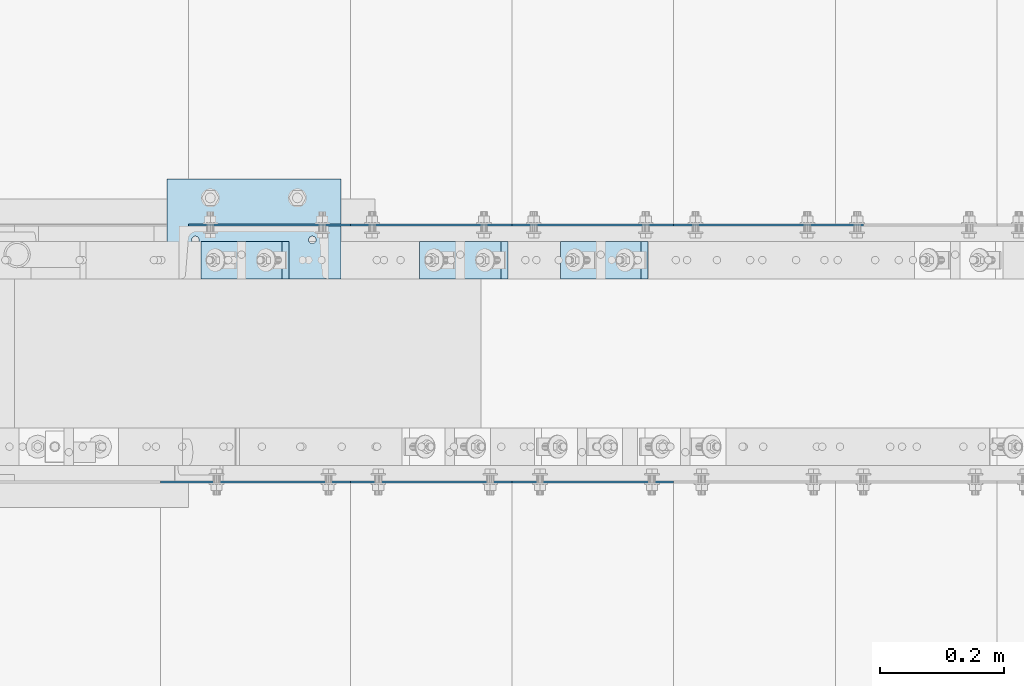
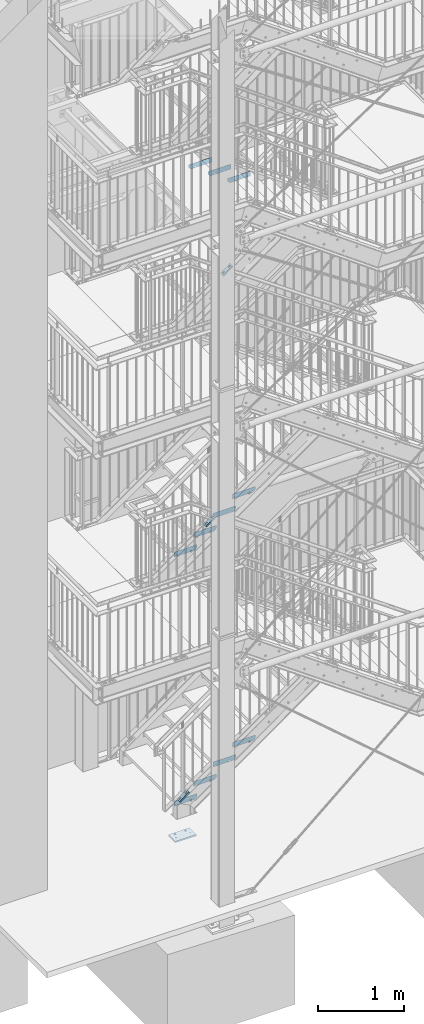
# One storey, part 170 of 825: 15 plates, 32 openings.
"""IFC2X3 building model written with IfcOpenShell, lengths in millimetres."""

from ifc_helpers import new_model, entity, si_unit, converted_unit, point, frame, frame_2d, origin, origin_with_axes, origin_2d_with_axis, place, context, project, spatial, polyline, circle_curve, line_curve, trimmed, segment, composite_curve, circle, outline, extrude, material, layer, layer_set, element, save


model = new_model("IFC2X3")

# Units and contexts
model_context = context("Model", 3, precision=1e-09, world=origin_with_axes())
ifc_project = project(units=[si_unit("LENGTHUNIT", "METRE", prefix="MILLI"), si_unit("AREAUNIT", "SQUARE_METRE"), si_unit("VOLUMEUNIT", "CUBIC_METRE"), converted_unit("PLANEANGLEUNIT", "DEGREE", entity("IfcPlaneAngleMeasure", 0.01745329), si_unit("PLANEANGLEUNIT", "RADIAN"), dimensions=[0, 0, 0, 0, 0, 0, 0])], contexts=[model_context])

# Site, building, storey
site_placement = place(None, origin_with_axes())
site = spatial("IfcSite", under=ifc_project, at=site_placement, Name="Cnopf'sche Kinderklinik", CompositionType="ELEMENT")
building_placement = place(site_placement, origin_with_axes())
building = spatial("IfcBuilding", under=site, at=building_placement, Name="Struktur 1", CompositionType="ELEMENT")
storey_placement = place(building_placement, origin_with_axes())
storey = spatial("IfcBuildingStorey", under=building, at=storey_placement, Name="Default Storey", CompositionType="ELEMENT", Elevation=0.0)

# Plate, openings
ifc_material = material(Name="S235JR")
ifc_layer_1 = layer(ifc_material, 3.0)
ifc_layer_set_1 = layer_set([ifc_layer_1], Name="S235JR")
plate_1_placement = place(None, frame((6016.713402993, 5733.736971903, 9428.0), z_axis=(0.0, 1.0, 0.0), x_axis=(0.0, 0.0, -1.0)))
plate_1 = element("IfcPlate", 1, at=plate_1_placement, inside=storey, material=ifc_layer_set_1, Name="Grate_Step#24", ObjectType="Grate_Step#24", context=model_context, shape_type="SweptSolid", body=[
    extrude(outline(polyline([(0.0, 0.0), (70.0, 0.0), (70.0, 275.0), (40.0, 305.0), (0.0, 305.0), (0.0, 0.0)])), origin_with_axes(), (0.0, 0.0, 1.0), 3.0),
])
opening_1_placement = place(plate_1_placement, frame((55.0, 35.0, -0.5), z_axis=(0.0, 0.0, 1.0), x_axis=(0.0, 1.0, 0.0)))
element("IfcOpeningElement", 2, at=opening_1_placement, cuts=plate_1, ObjectType="Opening", context=model_context, shape_type="SweptSolid", body=[
    extrude(circle(Radius=7.001, at=origin_2d_with_axis()), origin(), (0.0, 0.0, 1.0), 4.0),
])
opening_2_placement = place(plate_1_placement, frame((55.0, 215.0, -0.5), z_axis=(0.0, 0.0, 1.0), x_axis=(0.0, 1.0, 0.0)))
element("IfcOpeningElement", 3, at=opening_2_placement, cuts=plate_1, ObjectType="Opening", context=model_context, shape_type="SweptSolid", body=[
    extrude(outline(composite_curve([segment(trimmed(line_curve((-9.5, -7.001), (1.0, 0.0), 19.0), [point((-9.5, -7.001))], [point((9.5, -7.001))], True, "CARTESIAN"), True, "CONTINUOUS"), segment(trimmed(circle_curve(frame_2d((9.5, 0.0), x_axis=(1.0, 0.0)), 7.001), [point((9.5, -7.001))], [point((9.5, 7.001))], True, "CARTESIAN"), True, "CONTINUOUS"), segment(trimmed(line_curve((9.5, 7.001), (-1.0, 0.0), 19.0), [point((9.5, 7.001))], [point((-9.5, 7.001))], True, "CARTESIAN"), True, "CONTINUOUS"), segment(trimmed(circle_curve(frame_2d((-9.5, 0.0), x_axis=(1.0, 0.0)), 7.001), [point((-9.5, 7.001))], [point((-9.5, -7.001))], True, "CARTESIAN"), True, "CONTINUOUS")], self_intersect=False)), origin(), (0.0, 0.0, 1.0), 4.0),
])

plate_2_placement = place(None, frame((5756.713402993, 5733.736971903, 9616.0), z_axis=(0.0, 1.0, 0.0), x_axis=(0.0, 0.0, -1.0)))
plate_2 = element("IfcPlate", 4, at=plate_2_placement, inside=storey, material=ifc_layer_set_1, Name="Grate_Step#31", ObjectType="Grate_Step#31", context=model_context, shape_type="SweptSolid", body=[
    extrude(outline(polyline([(0.0, 0.0), (70.0, 0.0), (70.0, 275.0), (40.0, 305.0), (0.0, 305.0), (0.0, 0.0)])), origin_with_axes(), (0.0, 0.0, 1.0), 3.0),
])
opening_3_placement = place(plate_2_placement, frame((55.0, 35.0, -0.5), z_axis=(0.0, 0.0, 1.0), x_axis=(0.0, 1.0, 0.0)))
element("IfcOpeningElement", 5, at=opening_3_placement, cuts=plate_2, ObjectType="Opening", context=model_context, shape_type="SweptSolid", body=[
    extrude(circle(Radius=7.001, at=origin_2d_with_axis()), origin(), (0.0, 0.0, 1.0), 4.0),
])
opening_4_placement = place(plate_2_placement, frame((55.0, 215.0, -0.5), z_axis=(0.0, 0.0, 1.0), x_axis=(0.0, 1.0, 0.0)))
element("IfcOpeningElement", 6, at=opening_4_placement, cuts=plate_2, ObjectType="Opening", context=model_context, shape_type="SweptSolid", body=[
    extrude(outline(composite_curve([segment(trimmed(line_curve((-9.5, -7.001), (1.0, 0.0), 19.0), [point((-9.5, -7.001))], [point((9.5, -7.001))], True, "CARTESIAN"), True, "CONTINUOUS"), segment(trimmed(circle_curve(frame_2d((9.5, 0.0), x_axis=(1.0, 0.0)), 7.001), [point((9.5, -7.001))], [point((9.5, 7.001))], True, "CARTESIAN"), True, "CONTINUOUS"), segment(trimmed(line_curve((9.5, 7.001), (-1.0, 0.0), 19.0), [point((9.5, 7.001))], [point((-9.5, 7.001))], True, "CARTESIAN"), True, "CONTINUOUS"), segment(trimmed(circle_curve(frame_2d((-9.5, 0.0), x_axis=(1.0, 0.0)), 7.001), [point((-9.5, 7.001))], [point((-9.5, -7.001))], True, "CARTESIAN"), True, "CONTINUOUS")], self_intersect=False)), origin(), (0.0, 0.0, 1.0), 4.0),
])

plate_3_placement = place(None, frame((5496.713402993, 5733.736971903, 9804.0), z_axis=(0.0, 1.0, 0.0), x_axis=(0.0, 0.0, -1.0)))
plate_3 = element("IfcPlate", 7, at=plate_3_placement, inside=storey, material=ifc_layer_set_1, Name="Grate_Step#38", ObjectType="Grate_Step#38", context=model_context, shape_type="SweptSolid", body=[
    extrude(outline(polyline([(0.0, 0.0), (70.0, 0.0), (70.0, 275.0), (40.0, 305.0), (0.0, 305.0), (0.0, 0.0)])), origin_with_axes(), (0.0, 0.0, 1.0), 3.0),
])
opening_5_placement = place(plate_3_placement, frame((55.0, 35.0, -0.5), z_axis=(0.0, 0.0, 1.0), x_axis=(0.0, 1.0, 0.0)))
element("IfcOpeningElement", 8, at=opening_5_placement, cuts=plate_3, ObjectType="Opening", context=model_context, shape_type="SweptSolid", body=[
    extrude(circle(Radius=7.001, at=origin_2d_with_axis()), origin(), (0.0, 0.0, 1.0), 4.0),
])
opening_6_placement = place(plate_3_placement, frame((55.0, 215.0, -0.5), z_axis=(0.0, 0.0, 1.0), x_axis=(0.0, 1.0, 0.0)))
element("IfcOpeningElement", 9, at=opening_6_placement, cuts=plate_3, ObjectType="Opening", context=model_context, shape_type="SweptSolid", body=[
    extrude(outline(composite_curve([segment(trimmed(line_curve((-9.5, -7.001), (1.0, 0.0), 19.0), [point((-9.5, -7.001))], [point((9.5, -7.001))], True, "CARTESIAN"), True, "CONTINUOUS"), segment(trimmed(circle_curve(frame_2d((9.5, 0.0), x_axis=(1.0, 0.0)), 7.001), [point((9.5, -7.001))], [point((9.5, 7.001))], True, "CARTESIAN"), True, "CONTINUOUS"), segment(trimmed(line_curve((9.5, 7.001), (-1.0, 0.0), 19.0), [point((9.5, 7.001))], [point((-9.5, 7.001))], True, "CARTESIAN"), True, "CONTINUOUS"), segment(trimmed(circle_curve(frame_2d((-9.5, 0.0), x_axis=(1.0, 0.0)), 7.001), [point((-9.5, 7.001))], [point((-9.5, -7.001))], True, "CARTESIAN"), True, "CONTINUOUS")], self_intersect=False)), origin(), (0.0, 0.0, 1.0), 4.0),
])

plate_4_placement = place(None, frame((5756.713402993, 6149.736971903, 925.3157888), z_axis=(0.0, -1.0, 0.0), x_axis=(0.0, 0.0, -1.0)))
plate_4 = element("IfcPlate", 10, at=plate_4_placement, inside=storey, material=ifc_layer_set_1, Name="Grate_Step#17", ObjectType="Grate_Step#17", context=model_context, shape_type="SweptSolid", body=[
    extrude(outline(polyline([(0.0, 0.0), (70.0, 0.0), (70.0, 275.0), (40.0, 305.0), (0.0, 305.0), (0.0, 0.0)])), origin_with_axes(), (0.0, 0.0, 1.0), 3.0),
])
opening_7_placement = place(plate_4_placement, frame((55.0, 35.0, -0.5), z_axis=(0.0, 0.0, 1.0), x_axis=(0.0, 1.0, 0.0)))
element("IfcOpeningElement", 11, at=opening_7_placement, cuts=plate_4, ObjectType="Opening", context=model_context, shape_type="SweptSolid", body=[
    extrude(circle(Radius=7.001, at=origin_2d_with_axis()), origin(), (0.0, 0.0, 1.0), 4.0),
])
opening_8_placement = place(plate_4_placement, frame((55.0, 215.0, -0.5), z_axis=(0.0, 0.0, 1.0), x_axis=(0.0, 1.0, 0.0)))
element("IfcOpeningElement", 12, at=opening_8_placement, cuts=plate_4, ObjectType="Opening", context=model_context, shape_type="SweptSolid", body=[
    extrude(outline(composite_curve([segment(trimmed(line_curve((-9.5, -7.001), (1.0, 0.0), 19.0), [point((-9.5, -7.001))], [point((9.5, -7.001))], True, "CARTESIAN"), True, "CONTINUOUS"), segment(trimmed(circle_curve(frame_2d((9.5, 0.0), x_axis=(1.0, 0.0)), 7.001), [point((9.5, -7.001))], [point((9.5, 7.001))], True, "CARTESIAN"), True, "CONTINUOUS"), segment(trimmed(line_curve((9.5, 7.001), (-1.0, 0.0), 19.0), [point((9.5, 7.001))], [point((-9.5, 7.001))], True, "CARTESIAN"), True, "CONTINUOUS"), segment(trimmed(circle_curve(frame_2d((-9.5, 0.0), x_axis=(1.0, 0.0)), 7.001), [point((-9.5, 7.001))], [point((-9.5, -7.001))], True, "CARTESIAN"), True, "CONTINUOUS")], self_intersect=False)), origin(), (0.0, 0.0, 1.0), 4.0),
])

plate_5_placement = place(None, frame((5496.713402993, 6149.736971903, 740.2105256), z_axis=(0.0, -1.0, 0.0), x_axis=(0.0, 0.0, -1.0)))
plate_5 = element("IfcPlate", 13, at=plate_5_placement, inside=storey, material=ifc_layer_set_1, Name="Grate_Step#10", ObjectType="Grate_Step#10", context=model_context, shape_type="SweptSolid", body=[
    extrude(outline(polyline([(0.0, 0.0), (70.0, 0.0), (70.0, 275.0), (40.0, 305.0), (0.0, 305.0), (0.0, 0.0)])), origin_with_axes(), (0.0, 0.0, 1.0), 3.0),
])
opening_9_placement = place(plate_5_placement, frame((55.0, 215.0, -0.5), z_axis=(0.0, 0.0, 1.0), x_axis=(0.0, 1.0, 0.0)))
element("IfcOpeningElement", 14, at=opening_9_placement, cuts=plate_5, ObjectType="Opening", context=model_context, shape_type="SweptSolid", body=[
    extrude(outline(composite_curve([segment(trimmed(line_curve((-9.5, -7.001), (1.0, 0.0), 19.0), [point((-9.5, -7.001))], [point((9.5, -7.001))], True, "CARTESIAN"), True, "CONTINUOUS"), segment(trimmed(circle_curve(frame_2d((9.5, 0.0), x_axis=(1.0, 0.0)), 7.001), [point((9.5, -7.001))], [point((9.5, 7.001))], True, "CARTESIAN"), True, "CONTINUOUS"), segment(trimmed(line_curve((9.5, 7.001), (-1.0, 0.0), 19.0), [point((9.5, 7.001))], [point((-9.5, 7.001))], True, "CARTESIAN"), True, "CONTINUOUS"), segment(trimmed(circle_curve(frame_2d((-9.5, 0.0), x_axis=(1.0, 0.0)), 7.001), [point((-9.5, 7.001))], [point((-9.5, -7.001))], True, "CARTESIAN"), True, "CONTINUOUS")], self_intersect=False)), origin(), (0.0, 0.0, 1.0), 4.0),
])
opening_10_placement = place(plate_5_placement, frame((55.0, 35.0, -0.5), z_axis=(0.0, 0.0, 1.0), x_axis=(0.0, 1.0, 0.0)))
element("IfcOpeningElement", 15, at=opening_10_placement, cuts=plate_5, ObjectType="Opening", context=model_context, shape_type="SweptSolid", body=[
    extrude(circle(Radius=7.001, at=origin_2d_with_axis()), origin(), (0.0, 0.0, 1.0), 4.0),
])

plate_6_placement = place(None, frame((5496.713402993, 6149.736971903, 4252.5789471), z_axis=(0.0, -1.0, 0.0), x_axis=(0.0, 0.0, -1.0)))
plate_6 = element("IfcPlate", 16, at=plate_6_placement, inside=storey, material=ifc_layer_set_1, Name="Grate_Step#10", ObjectType="Grate_Step#10", context=model_context, shape_type="SweptSolid", body=[
    extrude(outline(polyline([(0.0, 0.0), (70.0, 0.0), (70.0, 275.0), (40.0, 305.0), (0.0, 305.0), (0.0, 0.0)])), origin_with_axes(), (0.0, 0.0, 1.0), 3.0),
])
opening_11_placement = place(plate_6_placement, frame((55.0, 215.0, -0.5), z_axis=(0.0, 0.0, 1.0), x_axis=(0.0, 1.0, 0.0)))
element("IfcOpeningElement", 17, at=opening_11_placement, cuts=plate_6, ObjectType="Opening", context=model_context, shape_type="SweptSolid", body=[
    extrude(outline(composite_curve([segment(trimmed(line_curve((-9.5, -7.001), (1.0, 0.0), 19.0), [point((-9.5, -7.001))], [point((9.5, -7.001))], True, "CARTESIAN"), True, "CONTINUOUS"), segment(trimmed(circle_curve(frame_2d((9.5, 0.0), x_axis=(1.0, 0.0)), 7.001), [point((9.5, -7.001))], [point((9.5, 7.001))], True, "CARTESIAN"), True, "CONTINUOUS"), segment(trimmed(line_curve((9.5, 7.001), (-1.0, 0.0), 19.0), [point((9.5, 7.001))], [point((-9.5, 7.001))], True, "CARTESIAN"), True, "CONTINUOUS"), segment(trimmed(circle_curve(frame_2d((-9.5, 0.0), x_axis=(1.0, 0.0)), 7.001), [point((-9.5, 7.001))], [point((-9.5, -7.001))], True, "CARTESIAN"), True, "CONTINUOUS")], self_intersect=False)), origin(), (0.0, 0.0, 1.0), 4.0),
])
opening_12_placement = place(plate_6_placement, frame((55.0, 35.0, -0.5), z_axis=(0.0, 0.0, 1.0), x_axis=(0.0, 1.0, 0.0)))
element("IfcOpeningElement", 18, at=opening_12_placement, cuts=plate_6, ObjectType="Opening", context=model_context, shape_type="SweptSolid", body=[
    extrude(circle(Radius=7.001, at=origin_2d_with_axis()), origin(), (0.0, 0.0, 1.0), 4.0),
])

plate_7_placement = place(None, frame((6016.713402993, 6149.736971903, 4618.1578945), z_axis=(0.0, -1.0, 0.0), x_axis=(0.0, 0.0, -1.0)))
plate_7 = element("IfcPlate", 19, at=plate_7_placement, inside=storey, material=ifc_layer_set_1, Name="Grate_Step#24", ObjectType="Grate_Step#24", context=model_context, shape_type="SweptSolid", body=[
    extrude(outline(polyline([(0.0, 0.0), (70.0, 0.0), (70.0, 275.0), (40.0, 305.0), (0.0, 305.0), (0.0, 0.0)])), origin_with_axes(), (0.0, 0.0, 1.0), 3.0),
])
opening_13_placement = place(plate_7_placement, frame((55.0, 35.0, -0.5), z_axis=(0.0, 0.0, 1.0), x_axis=(0.0, 1.0, 0.0)))
element("IfcOpeningElement", 20, at=opening_13_placement, cuts=plate_7, ObjectType="Opening", context=model_context, shape_type="SweptSolid", body=[
    extrude(circle(Radius=7.001, at=origin_2d_with_axis()), origin(), (0.0, 0.0, 1.0), 4.0),
])
opening_14_placement = place(plate_7_placement, frame((55.0, 215.0, -0.5), z_axis=(0.0, 0.0, 1.0), x_axis=(0.0, 1.0, 0.0)))
element("IfcOpeningElement", 21, at=opening_14_placement, cuts=plate_7, ObjectType="Opening", context=model_context, shape_type="SweptSolid", body=[
    extrude(outline(composite_curve([segment(trimmed(line_curve((-9.5, -7.001), (1.0, 0.0), 19.0), [point((-9.5, -7.001))], [point((9.5, -7.001))], True, "CARTESIAN"), True, "CONTINUOUS"), segment(trimmed(circle_curve(frame_2d((9.5, 0.0), x_axis=(1.0, 0.0)), 7.001), [point((9.5, -7.001))], [point((9.5, 7.001))], True, "CARTESIAN"), True, "CONTINUOUS"), segment(trimmed(line_curve((9.5, 7.001), (-1.0, 0.0), 19.0), [point((9.5, 7.001))], [point((-9.5, 7.001))], True, "CARTESIAN"), True, "CONTINUOUS"), segment(trimmed(circle_curve(frame_2d((-9.5, 0.0), x_axis=(1.0, 0.0)), 7.001), [point((-9.5, 7.001))], [point((-9.5, -7.001))], True, "CARTESIAN"), True, "CONTINUOUS")], self_intersect=False)), origin(), (0.0, 0.0, 1.0), 4.0),
])

plate_8_placement = place(None, frame((5236.713402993, 6149.736971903, 4069.7894734), z_axis=(0.0, -1.0, 0.0), x_axis=(0.0, 0.0, -1.0)))
plate_8 = element("IfcPlate", 22, at=plate_8_placement, inside=storey, material=ifc_layer_set_1, Name="Grate_Step#3", ObjectType="Grate_Step#3", context=model_context, shape_type="SweptSolid", body=[
    extrude(outline(polyline([(0.0, 0.0), (70.0, 0.0), (70.0, 275.0), (40.0, 305.0), (0.0, 305.0), (0.0, 0.0)])), origin_with_axes(), (0.0, 0.0, 1.0), 3.0),
])
opening_15_placement = place(plate_8_placement, frame((55.0, 35.0, -0.5), z_axis=(0.0, 0.0, 1.0), x_axis=(0.0, 1.0, 0.0)))
element("IfcOpeningElement", 23, at=opening_15_placement, cuts=plate_8, ObjectType="Opening", context=model_context, shape_type="SweptSolid", body=[
    extrude(circle(Radius=7.001, at=origin_2d_with_axis()), origin(), (0.0, 0.0, 1.0), 4.0),
])
opening_16_placement = place(plate_8_placement, frame((55.0, 215.0, -0.5), z_axis=(0.0, 0.0, 1.0), x_axis=(0.0, 1.0, 0.0)))
element("IfcOpeningElement", 24, at=opening_16_placement, cuts=plate_8, ObjectType="Opening", context=model_context, shape_type="SweptSolid", body=[
    extrude(outline(composite_curve([segment(trimmed(line_curve((-9.5, -7.001), (1.0, 0.0), 19.0), [point((-9.5, -7.001))], [point((9.5, -7.001))], True, "CARTESIAN"), True, "CONTINUOUS"), segment(trimmed(circle_curve(frame_2d((9.5, 0.0), x_axis=(1.0, 0.0)), 7.001), [point((9.5, -7.001))], [point((9.5, 7.001))], True, "CARTESIAN"), True, "CONTINUOUS"), segment(trimmed(line_curve((9.5, 7.001), (-1.0, 0.0), 19.0), [point((9.5, 7.001))], [point((-9.5, 7.001))], True, "CARTESIAN"), True, "CONTINUOUS"), segment(trimmed(circle_curve(frame_2d((-9.5, 0.0), x_axis=(1.0, 0.0)), 7.001), [point((-9.5, 7.001))], [point((-9.5, -7.001))], True, "CARTESIAN"), True, "CONTINUOUS")], self_intersect=False)), origin(), (0.0, 0.0, 1.0), 4.0),
])

plate_9_placement = place(None, frame((6016.713402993, 6149.736971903, 1110.421052), z_axis=(0.0, -1.0, 0.0), x_axis=(0.0, 0.0, -1.0)))
plate_9 = element("IfcPlate", 25, at=plate_9_placement, inside=storey, material=ifc_layer_set_1, Name="Grate_Step#24", ObjectType="Grate_Step#24", context=model_context, shape_type="SweptSolid", body=[
    extrude(outline(polyline([(0.0, 0.0), (70.0, 0.0), (70.0, 275.0), (40.0, 305.0), (0.0, 305.0), (0.0, 0.0)])), origin_with_axes(), (0.0, 0.0, 1.0), 3.0),
])
opening_17_placement = place(plate_9_placement, frame((55.0, 215.0, -0.5), z_axis=(0.0, 0.0, 1.0), x_axis=(0.0, 1.0, 0.0)))
element("IfcOpeningElement", 26, at=opening_17_placement, cuts=plate_9, ObjectType="Opening", context=model_context, shape_type="SweptSolid", body=[
    extrude(outline(composite_curve([segment(trimmed(line_curve((-9.5, -7.001), (1.0, 0.0), 19.0), [point((-9.5, -7.001))], [point((9.5, -7.001))], True, "CARTESIAN"), True, "CONTINUOUS"), segment(trimmed(circle_curve(frame_2d((9.5, 0.0), x_axis=(1.0, 0.0)), 7.001), [point((9.5, -7.001))], [point((9.5, 7.001))], True, "CARTESIAN"), True, "CONTINUOUS"), segment(trimmed(line_curve((9.5, 7.001), (-1.0, 0.0), 19.0), [point((9.5, 7.001))], [point((-9.5, 7.001))], True, "CARTESIAN"), True, "CONTINUOUS"), segment(trimmed(circle_curve(frame_2d((-9.5, 0.0), x_axis=(1.0, 0.0)), 7.001), [point((-9.5, 7.001))], [point((-9.5, -7.001))], True, "CARTESIAN"), True, "CONTINUOUS")], self_intersect=False)), origin(), (0.0, 0.0, 1.0), 4.0),
])
opening_18_placement = place(plate_9_placement, frame((55.0, 35.0, -0.5), z_axis=(0.0, 0.0, 1.0), x_axis=(0.0, 1.0, 0.0)))
element("IfcOpeningElement", 27, at=opening_18_placement, cuts=plate_9, ObjectType="Opening", context=model_context, shape_type="SweptSolid", body=[
    extrude(circle(Radius=7.001, at=origin_2d_with_axis()), origin(), (0.0, 0.0, 1.0), 4.0),
])

plate_10_placement = place(None, frame((5236.713402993, 6149.736971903, 555.1052624), z_axis=(0.0, -1.0, 0.0), x_axis=(0.0, 0.0, -1.0)))
plate_10 = element("IfcPlate", 28, at=plate_10_placement, inside=storey, material=ifc_layer_set_1, Name="Grate_Step#3", ObjectType="Grate_Step#3", context=model_context, shape_type="SweptSolid", body=[
    extrude(outline(polyline([(0.0, 0.0), (70.0, 0.0), (70.0, 275.0), (40.0, 305.0), (0.0, 305.0), (0.0, 0.0)])), origin_with_axes(), (0.0, 0.0, 1.0), 3.0),
])
opening_19_placement = place(plate_10_placement, frame((55.0, 215.0, -0.5), z_axis=(0.0, 0.0, 1.0), x_axis=(0.0, 1.0, 0.0)))
element("IfcOpeningElement", 29, at=opening_19_placement, cuts=plate_10, ObjectType="Opening", context=model_context, shape_type="SweptSolid", body=[
    extrude(outline(composite_curve([segment(trimmed(line_curve((-9.5, -7.001), (1.0, 0.0), 19.0), [point((-9.5, -7.001))], [point((9.5, -7.001))], True, "CARTESIAN"), True, "CONTINUOUS"), segment(trimmed(circle_curve(frame_2d((9.5, 0.0), x_axis=(1.0, 0.0)), 7.001), [point((9.5, -7.001))], [point((9.5, 7.001))], True, "CARTESIAN"), True, "CONTINUOUS"), segment(trimmed(line_curve((9.5, 7.001), (-1.0, 0.0), 19.0), [point((9.5, 7.001))], [point((-9.5, 7.001))], True, "CARTESIAN"), True, "CONTINUOUS"), segment(trimmed(circle_curve(frame_2d((-9.5, 0.0), x_axis=(1.0, 0.0)), 7.001), [point((-9.5, 7.001))], [point((-9.5, -7.001))], True, "CARTESIAN"), True, "CONTINUOUS")], self_intersect=False)), origin(), (0.0, 0.0, 1.0), 4.0),
])
opening_20_placement = place(plate_10_placement, frame((55.0, 35.0, -0.5), z_axis=(0.0, 0.0, 1.0), x_axis=(0.0, 1.0, 0.0)))
element("IfcOpeningElement", 30, at=opening_20_placement, cuts=plate_10, ObjectType="Opening", context=model_context, shape_type="SweptSolid", body=[
    extrude(circle(Radius=7.001, at=origin_2d_with_axis()), origin(), (0.0, 0.0, 1.0), 4.0),
])

plate_11_placement = place(None, frame((5756.713402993, 6149.736971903, 4435.3684208), z_axis=(0.0, -1.0, 0.0), x_axis=(0.0, 0.0, -1.0)))
plate_11 = element("IfcPlate", 31, at=plate_11_placement, inside=storey, material=ifc_layer_set_1, Name="Grate_Step#17", ObjectType="Grate_Step#17", context=model_context, shape_type="SweptSolid", body=[
    extrude(outline(polyline([(0.0, 0.0), (70.0, 0.0), (70.0, 275.0), (40.0, 305.0), (0.0, 305.0), (0.0, 0.0)])), origin_with_axes(), (0.0, 0.0, 1.0), 3.0),
])
opening_21_placement = place(plate_11_placement, frame((55.0, 215.0, -0.5), z_axis=(0.0, 0.0, 1.0), x_axis=(0.0, 1.0, 0.0)))
element("IfcOpeningElement", 32, at=opening_21_placement, cuts=plate_11, ObjectType="Opening", context=model_context, shape_type="SweptSolid", body=[
    extrude(outline(composite_curve([segment(trimmed(line_curve((-9.5, -7.001), (1.0, 0.0), 19.0), [point((-9.5, -7.001))], [point((9.5, -7.001))], True, "CARTESIAN"), True, "CONTINUOUS"), segment(trimmed(circle_curve(frame_2d((9.5, 0.0), x_axis=(1.0, 0.0)), 7.001), [point((9.5, -7.001))], [point((9.5, 7.001))], True, "CARTESIAN"), True, "CONTINUOUS"), segment(trimmed(line_curve((9.5, 7.001), (-1.0, 0.0), 19.0), [point((9.5, 7.001))], [point((-9.5, 7.001))], True, "CARTESIAN"), True, "CONTINUOUS"), segment(trimmed(circle_curve(frame_2d((-9.5, 0.0), x_axis=(1.0, 0.0)), 7.001), [point((-9.5, 7.001))], [point((-9.5, -7.001))], True, "CARTESIAN"), True, "CONTINUOUS")], self_intersect=False)), origin(), (0.0, 0.0, 1.0), 4.0),
])
opening_22_placement = place(plate_11_placement, frame((55.0, 35.0, -0.5), z_axis=(0.0, 0.0, 1.0), x_axis=(0.0, 1.0, 0.0)))
element("IfcOpeningElement", 33, at=opening_22_placement, cuts=plate_11, ObjectType="Opening", context=model_context, shape_type="SweptSolid", body=[
    extrude(circle(Radius=7.001, at=origin_2d_with_axis()), origin(), (0.0, 0.0, 1.0), 4.0),
])

ifc_layer_2 = layer(ifc_material, 20.0)
ifc_layer_set_2 = layer_set([ifc_layer_2], Name="S235JR")
plate_12_placement = place(None, frame((5201.713402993, 6061.736971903, 50.0), z_axis=(0.0, 0.0, -1.0), x_axis=(0.0, 1.0, 0.0)))
plate_12 = element("IfcPlate", 34, at=plate_12_placement, inside=storey, material=ifc_layer_set_2, Name="Baseplate", ObjectType="Baseplate", context=model_context, shape_type="SweptSolid", body=[
    extrude(outline(polyline([(0.0, 0.0), (160.0, 0.0), (160.0, 280.0), (0.0, 280.0), (0.0, 0.0)])), origin_with_axes(), (0.0, 0.0, 1.0), 20.0),
])
opening_23_placement = place(plate_12_placement, frame((130.0, 140.0, 20.5), z_axis=(0.0, 0.0, -1.0), x_axis=(1.0, 0.0, 0.0)))
element("IfcOpeningElement", 35, at=opening_23_placement, cuts=plate_12, ObjectType="Opening", context=model_context, shape_type="SweptSolid", body=[
    extrude(circle(Radius=10.001, at=frame_2d((0.0, 70.0), x_axis=(1.0, 0.0))), origin(), (0.0, 0.0, 1.0), 21.0),
])
opening_24_placement = place(plate_12_placement, frame((130.0, 140.0, 20.5), z_axis=(0.0, 0.0, -1.0), x_axis=(1.0, 0.0, 0.0)))
element("IfcOpeningElement", 36, at=opening_24_placement, cuts=plate_12, ObjectType="Opening", context=model_context, shape_type="SweptSolid", body=[
    extrude(circle(Radius=10.001, at=frame_2d((0.0, -70.0), x_axis=(1.0, 0.0))), origin(), (0.0, 0.0, 1.0), 21.0),
])
opening_25_placement = place(plate_12_placement, frame((62.5, 234.0, 20.5), z_axis=(0.0, 0.0, -1.0), x_axis=(0.0, -1.0, 0.0)))
element("IfcOpeningElement", 37, at=opening_25_placement, cuts=plate_12, ObjectType="Opening", context=model_context, shape_type="SweptSolid", body=[
    extrude(circle(Radius=6.001, at=origin_2d_with_axis()), origin(), (0.0, 0.0, 1.0), 21.0),
])
opening_26_placement = place(plate_12_placement, frame((62.5, 46.0, 20.5), z_axis=(0.0, 0.0, -1.0), x_axis=(0.0, -1.0, 0.0)))
element("IfcOpeningElement", 38, at=opening_26_placement, cuts=plate_12, ObjectType="Opening", context=model_context, shape_type="SweptSolid", body=[
    extrude(circle(Radius=6.001, at=origin_2d_with_axis()), origin(), (0.0, 0.0, 1.0), 21.0),
])

plate_13_placement = place(None, frame((5398.389021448, 6121.736971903, 670.209138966), z_axis=(-0.579973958, 0.0, 0.814635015), x_axis=(-0.814635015, 0.0, -0.579973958)))
plate_13 = element("IfcPlate", 39, at=plate_13_placement, inside=storey, material=ifc_layer_set_2, Name="Plate#500", ObjectType="Plate#500", context=model_context, shape_type="SweptSolid", body=[
    extrude(outline(polyline([(0.0, 0.0), (160.0, 0.0), (160.0, 60.0), (0.0, 60.0), (0.0, 0.0)])), origin_with_axes(), (0.0, 0.0, 1.0), 20.0),
])
opening_27_placement = place(plate_13_placement, frame((38.0, 37.001, 20.5), z_axis=(0.0, 0.0, 1.0), x_axis=(-1.0, 0.0, 0.0)))
element("IfcOpeningElement", 40, at=opening_27_placement, cuts=plate_13, ObjectType="Opening", context=model_context, shape_type="SweptSolid", body=[
    extrude(outline(composite_curve([segment(trimmed(line_curve((0.0, 0.0), (1.0, 0.0), 16.0), [point((0.0, 0.0))], [point((16.0, 0.0))], True, "CARTESIAN"), True, "CONTINUOUS"), segment(trimmed(circle_curve(frame_2d((16.0, 7.001), x_axis=(1.0, 0.0)), 7.001), [point((16.0, 0.0))], [point((16.0, 14.002))], True, "CARTESIAN"), True, "CONTINUOUS"), segment(trimmed(line_curve((16.0, 14.002), (-1.0, 0.0), 16.0), [point((16.0, 14.002))], [point((0.0, 14.002))], True, "CARTESIAN"), True, "CONTINUOUS"), segment(trimmed(circle_curve(frame_2d((0.0, 7.001), x_axis=(1.0, 0.0)), 7.001), [point((0.0, 14.002))], [point((0.0, 0.0))], True, "CARTESIAN"), True, "CONTINUOUS")], self_intersect=False)), origin(), (0.0, 0.0, -1.0), 21.0),
])
opening_28_placement = place(plate_13_placement, frame((138.0, 37.001, 20.5), z_axis=(0.0, 0.0, 1.0), x_axis=(-1.0, 0.0, 0.0)))
element("IfcOpeningElement", 41, at=opening_28_placement, cuts=plate_13, ObjectType="Opening", context=model_context, shape_type="SweptSolid", body=[
    extrude(outline(composite_curve([segment(trimmed(line_curve((0.0, 0.0), (1.0, 0.0), 16.0), [point((0.0, 0.0))], [point((16.0, 0.0))], True, "CARTESIAN"), True, "CONTINUOUS"), segment(trimmed(circle_curve(frame_2d((16.0, 7.001), x_axis=(1.0, 0.0)), 7.001), [point((16.0, 0.0))], [point((16.0, 14.002))], True, "CARTESIAN"), True, "CONTINUOUS"), segment(trimmed(line_curve((16.0, 14.002), (-1.0, 0.0), 16.0), [point((16.0, 14.002))], [point((0.0, 14.002))], True, "CARTESIAN"), True, "CONTINUOUS"), segment(trimmed(circle_curve(frame_2d((0.0, 7.001), x_axis=(1.0, 0.0)), 7.001), [point((0.0, 14.002))], [point((0.0, 0.0))], True, "CARTESIAN"), True, "CONTINUOUS")], self_intersect=False)), origin(), (0.0, 0.0, -1.0), 21.0),
])

plate_14_placement = place(None, frame((5750.397948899, 6121.736971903, 4430.928426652), z_axis=(-0.575128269, 0.0, 0.818063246), x_axis=(-0.818063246, 0.0, -0.575128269)))
plate_14 = element("IfcPlate", 42, at=plate_14_placement, inside=storey, material=ifc_layer_set_2, Name="Plate#501", ObjectType="Plate#501", context=model_context, shape_type="SweptSolid", body=[
    extrude(outline(polyline([(0.0, 0.0), (160.0, 0.0), (160.0, 60.0), (0.0, 60.0), (0.0, 0.0)])), origin_with_axes(), (0.0, 0.0, 1.0), 20.0),
])
opening_29_placement = place(plate_14_placement, frame((38.0, 37.001, 20.5), z_axis=(0.0, 0.0, 1.0), x_axis=(-1.0, 0.0, 0.0)))
element("IfcOpeningElement", 43, at=opening_29_placement, cuts=plate_14, ObjectType="Opening", context=model_context, shape_type="SweptSolid", body=[
    extrude(outline(composite_curve([segment(trimmed(line_curve((0.0, 0.0), (1.0, 0.0), 16.0), [point((0.0, 0.0))], [point((16.0, 0.0))], True, "CARTESIAN"), True, "CONTINUOUS"), segment(trimmed(circle_curve(frame_2d((16.0, 7.001), x_axis=(1.0, 0.0)), 7.001), [point((16.0, 0.0))], [point((16.0, 14.002))], True, "CARTESIAN"), True, "CONTINUOUS"), segment(trimmed(line_curve((16.0, 14.002), (-1.0, 0.0), 16.0), [point((16.0, 14.002))], [point((0.0, 14.002))], True, "CARTESIAN"), True, "CONTINUOUS"), segment(trimmed(circle_curve(frame_2d((0.0, 7.001), x_axis=(1.0, 0.0)), 7.001), [point((0.0, 14.002))], [point((0.0, 0.0))], True, "CARTESIAN"), True, "CONTINUOUS")], self_intersect=False)), origin(), (0.0, 0.0, -1.0), 21.0),
])
opening_30_placement = place(plate_14_placement, frame((138.0, 37.001, 20.5), z_axis=(0.0, 0.0, 1.0), x_axis=(-1.0, 0.0, 0.0)))
element("IfcOpeningElement", 44, at=opening_30_placement, cuts=plate_14, ObjectType="Opening", context=model_context, shape_type="SweptSolid", body=[
    extrude(outline(composite_curve([segment(trimmed(line_curve((0.0, 0.0), (1.0, 0.0), 16.0), [point((0.0, 0.0))], [point((16.0, 0.0))], True, "CARTESIAN"), True, "CONTINUOUS"), segment(trimmed(circle_curve(frame_2d((16.0, 7.001), x_axis=(1.0, 0.0)), 7.001), [point((16.0, 0.0))], [point((16.0, 14.002))], True, "CARTESIAN"), True, "CONTINUOUS"), segment(trimmed(line_curve((16.0, 14.002), (-1.0, 0.0), 16.0), [point((16.0, 14.002))], [point((0.0, 14.002))], True, "CARTESIAN"), True, "CONTINUOUS"), segment(trimmed(circle_curve(frame_2d((0.0, 7.001), x_axis=(1.0, 0.0)), 7.001), [point((0.0, 14.002))], [point((0.0, 0.0))], True, "CARTESIAN"), True, "CONTINUOUS")], self_intersect=False)), origin(), (0.0, 0.0, -1.0), 21.0),
])

plate_15_placement = place(None, frame((5975.736519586, 6121.736971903, 7894.370561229), z_axis=(-0.585945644, 0.0, 0.810350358), x_axis=(-0.810350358, 0.0, -0.585945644)))
plate_15 = element("IfcPlate", 45, at=plate_15_placement, inside=storey, material=ifc_layer_set_2, Name="Plate#501", ObjectType="Plate#501", context=model_context, shape_type="SweptSolid", body=[
    extrude(outline(polyline([(0.0, 0.0), (160.0, 0.0), (160.0, 60.0), (0.0, 60.0), (0.0, 0.0)])), origin_with_axes(), (0.0, 0.0, 1.0), 20.0),
])
opening_31_placement = place(plate_15_placement, frame((38.0, 37.001, 20.5), z_axis=(0.0, 0.0, 1.0), x_axis=(-1.0, 0.0, 0.0)))
element("IfcOpeningElement", 46, at=opening_31_placement, cuts=plate_15, ObjectType="Opening", context=model_context, shape_type="SweptSolid", body=[
    extrude(outline(composite_curve([segment(trimmed(line_curve((0.0, 0.0), (1.0, 0.0), 16.0), [point((0.0, 0.0))], [point((16.0, 0.0))], True, "CARTESIAN"), True, "CONTINUOUS"), segment(trimmed(circle_curve(frame_2d((16.0, 7.001), x_axis=(1.0, 0.0)), 7.001), [point((16.0, 0.0))], [point((16.0, 14.002))], True, "CARTESIAN"), True, "CONTINUOUS"), segment(trimmed(line_curve((16.0, 14.002), (-1.0, 0.0), 16.0), [point((16.0, 14.002))], [point((0.0, 14.002))], True, "CARTESIAN"), True, "CONTINUOUS"), segment(trimmed(circle_curve(frame_2d((0.0, 7.001), x_axis=(1.0, 0.0)), 7.001), [point((0.0, 14.002))], [point((0.0, 0.0))], True, "CARTESIAN"), True, "CONTINUOUS")], self_intersect=False)), origin(), (0.0, 0.0, -1.0), 21.0),
])
opening_32_placement = place(plate_15_placement, frame((138.0, 37.001, 20.5), z_axis=(0.0, 0.0, 1.0), x_axis=(-1.0, 0.0, 0.0)))
element("IfcOpeningElement", 47, at=opening_32_placement, cuts=plate_15, ObjectType="Opening", context=model_context, shape_type="SweptSolid", body=[
    extrude(outline(composite_curve([segment(trimmed(line_curve((0.0, 0.0), (1.0, 0.0), 16.0), [point((0.0, 0.0))], [point((16.0, 0.0))], True, "CARTESIAN"), True, "CONTINUOUS"), segment(trimmed(circle_curve(frame_2d((16.0, 7.001), x_axis=(1.0, 0.0)), 7.001), [point((16.0, 0.0))], [point((16.0, 14.002))], True, "CARTESIAN"), True, "CONTINUOUS"), segment(trimmed(line_curve((16.0, 14.002), (-1.0, 0.0), 16.0), [point((16.0, 14.002))], [point((0.0, 14.002))], True, "CARTESIAN"), True, "CONTINUOUS"), segment(trimmed(circle_curve(frame_2d((0.0, 7.001), x_axis=(1.0, 0.0)), 7.001), [point((0.0, 14.002))], [point((0.0, 0.0))], True, "CARTESIAN"), True, "CONTINUOUS")], self_intersect=False)), origin(), (0.0, 0.0, -1.0), 21.0),
])

save(model, "model.ifc")
